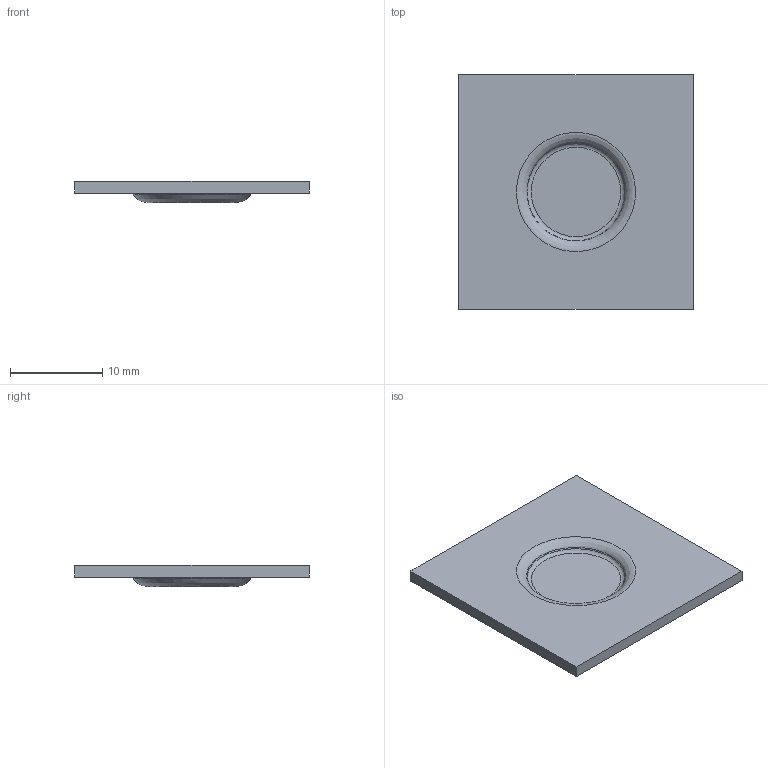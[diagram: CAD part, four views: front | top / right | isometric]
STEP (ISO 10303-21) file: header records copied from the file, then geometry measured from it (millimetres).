
FILE_DESCRIPTION((''),'1');
FILE_NAME('C:/Users/ericfrey/Desktop/BIG.stp', '2015-02-09T22:51:16',(''), (''), 'KCM Version 1.1.1182.0', 'Kubotek KeyCreator', '');
FILE_SCHEMA(('AUTOMOTIVE_DESIGN'));
Length unit declared in the file: inch
Bounding box: 25.4 x 25.4 x 2.29 mm (x, y, z)
Volume: 837.6 mm3; surface area: 1448.1 mm2
Topology: 1 solids, 1 shells, 13 faces, 30 edges, 21 vertices
Faces by surface type: plane 8, torus 3, cone 2
Entity records: 379 total; most frequent: DIRECTION 62, ORIENTED_EDGE 60, CARTESIAN_POINT 59, EDGE_CURVE 30, AXIS2_PLACEMENT_3D 24, VERTEX_POINT 21, EDGE_LOOP 15, VECTOR 14
